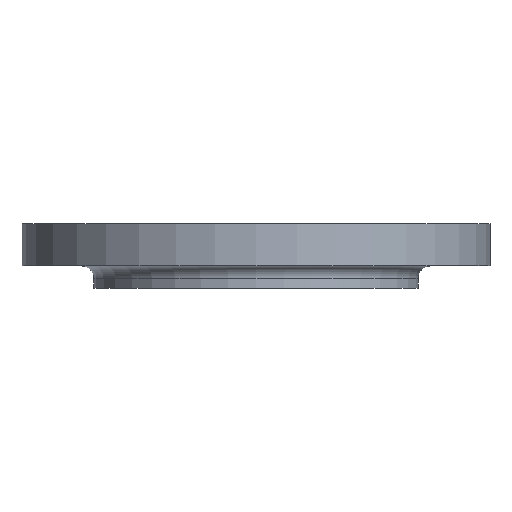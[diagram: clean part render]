
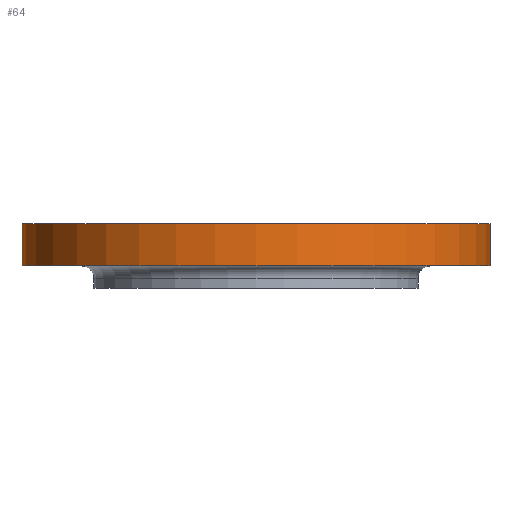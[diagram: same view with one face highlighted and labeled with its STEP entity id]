
A CAD part, front view. The second image highlights one B-rep face of the part: STEP entity #64.
In plain terms, the highlighted cylindrical face has radius 187.5 mm (diameter 375 mm), a partial arc.
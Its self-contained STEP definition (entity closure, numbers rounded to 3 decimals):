
#10 = CARTESIAN_POINT ( 'NONE',  ( 187.5, 0., -34. ) ) ;
#26 = VECTOR ( 'NONE', #260, 1000. ) ;
#29 = CIRCLE ( 'NONE', #41, 187.5 ) ;
#31 = CARTESIAN_POINT ( 'NONE',  ( -187.5, 0., -34. ) ) ;
#41 = AXIS2_PLACEMENT_3D ( 'NONE', #250, #248, #247 ) ;
#64 = ADVANCED_FACE ( 'NONE', ( #669 ), #682, .T. ) ;
#74 = CARTESIAN_POINT ( 'NONE',  ( 187.5, 0., 0. ) ) ;
#118 = DIRECTION ( 'NONE',  ( 0., 0., 1. ) ) ;
#119 = CARTESIAN_POINT ( 'NONE',  ( 187.5, 0., -98. ) ) ;
#120 = LINE ( 'NONE', #119, #953 ) ;
#139 = CARTESIAN_POINT ( 'NONE',  ( -187.5, 0., 0. ) ) ;
#247 = DIRECTION ( 'NONE',  ( 1., 0., 0. ) ) ;
#248 = DIRECTION ( 'NONE',  ( 0., 0., 1. ) ) ;
#250 = CARTESIAN_POINT ( 'NONE',  ( 0., 0., -34. ) ) ;
#260 = DIRECTION ( 'NONE',  ( 0., 0., 1. ) ) ;
#261 = CARTESIAN_POINT ( 'NONE',  ( -187.5, 0., -98. ) ) ;
#262 = LINE ( 'NONE', #261, #26 ) ;
#363 = DIRECTION ( 'NONE',  ( 1., 0., 0. ) ) ;
#364 = DIRECTION ( 'NONE',  ( 0., 0., 1. ) ) ;
#365 = CARTESIAN_POINT ( 'NONE',  ( 0., 0., 0. ) ) ;
#667 = CARTESIAN_POINT ( 'NONE',  ( 0., 0., -98. ) ) ;
#669 = FACE_OUTER_BOUND ( 'NONE', #1128, .T. ) ;
#682 = CYLINDRICAL_SURFACE ( 'NONE', #777, 187.5 ) ;
#685 = DIRECTION ( 'NONE',  ( 0., 0., 1. ) ) ;
#705 = DIRECTION ( 'NONE',  ( 1., 0., 0. ) ) ;
#777 = AXIS2_PLACEMENT_3D ( 'NONE', #667, #685, #705 ) ;
#795 = VERTEX_POINT ( 'NONE', #74 ) ;
#804 = CIRCLE ( 'NONE', #805, 187.5 ) ;
#805 = AXIS2_PLACEMENT_3D ( 'NONE', #365, #364, #363 ) ;
#847 = ORIENTED_EDGE ( 'NONE', *, *, #1043, .F. ) ;
#849 = ORIENTED_EDGE ( 'NONE', *, *, #1045, .T. ) ;
#853 = ORIENTED_EDGE ( 'NONE', *, *, #1120, .T. ) ;
#854 = ORIENTED_EDGE ( 'NONE', *, *, #924, .F. ) ;
#924 = EDGE_CURVE ( 'NONE', #1114, #795, #804, .T. ) ;
#953 = VECTOR ( 'NONE', #118, 1000. ) ;
#1043 = EDGE_CURVE ( 'NONE', #1195, #1114, #262, .T. ) ;
#1045 = EDGE_CURVE ( 'NONE', #1195, #1214, #29, .T. ) ;
#1114 = VERTEX_POINT ( 'NONE', #139 ) ;
#1120 = EDGE_CURVE ( 'NONE', #1214, #795, #120, .T. ) ;
#1128 = EDGE_LOOP ( 'NONE', ( #847, #849, #853, #854 ) ) ;
#1195 = VERTEX_POINT ( 'NONE', #31 ) ;
#1214 = VERTEX_POINT ( 'NONE', #10 ) ;
